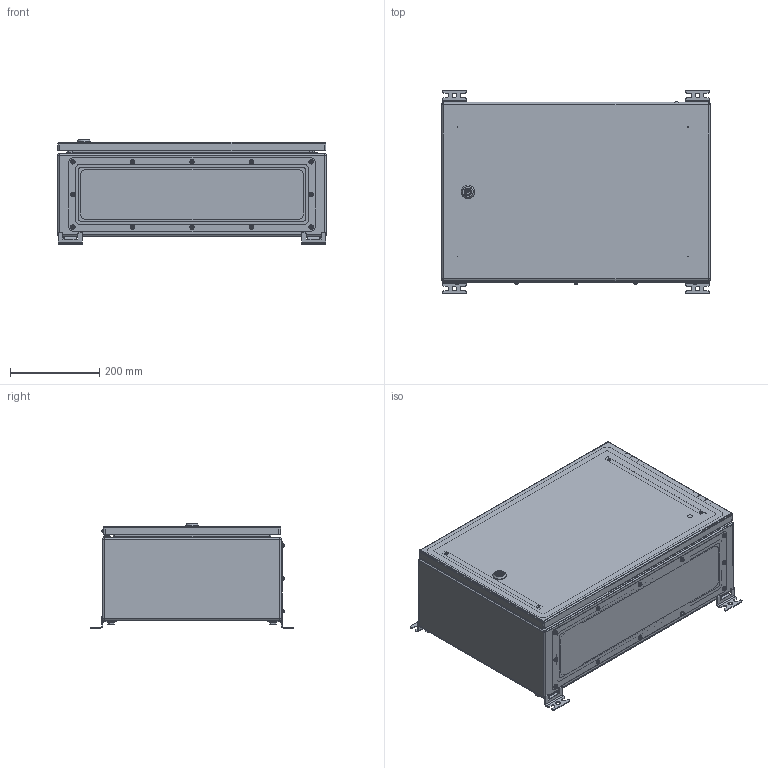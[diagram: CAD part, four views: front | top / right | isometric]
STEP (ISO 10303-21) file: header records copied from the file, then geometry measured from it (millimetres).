
FILE_DESCRIPTION(('STEP AP242'), '1');
FILE_NAME('400 ﾙﾌﾏ-1 (IP-56)', '', ('UNSPECIFIED'), ('UNSPECIFIED'), 'C3D Converter', 'C3D Toolkit', '');
FILE_SCHEMA(('AP242_MANAGED_MODEL_BASED_3D_ENGINEERING_MIM_LF { 1 0 10303 442 1 1 4 }'));
Length unit declared in the file: millimetre
Products named in the file (50): ЩМП-1-ЛФ СБ; 410-ЛФ; 420; 421; 411-Ф; 430-Л; 431-Л; 490; 491; 401; 440-Ф; 441-Ф; 402; 403; 450; 451; ЦИУЛ.210677.00.03-03; 452
Assembly tree (144 placements, depth 4):
  ЩМП-1-ЛФ СБ
    410-ЛФ
      420
        421
        (unnamed)  x4
        (unnamed)
      411-Ф
      430-Л
        431-Л
        (unnamed)  x12
    490  x2
      491
      (unnamed)
      (unnamed)
      (unnamed)
      (unnamed)
      (unnamed)
    490  x2
      491
      (unnamed)
      (unnamed)
      (unnamed)
      (unnamed)
      (unnamed)
    401
    (unnamed)  x4
    (unnamed)  x4
    (unnamed)  x4
    (unnamed)  x2
      (unnamed)
      (unnamed)
      (unnamed)
    (unnamed)  x16
    440-Ф
      441-Ф
      (unnamed)
      (unnamed)  x4
      (unnamed)  x2
    402  x2
    (unnamed)  x4
    (unnamed)  x4
    (unnamed)
      (unnamed)
      (unnamed)
      (unnamed)
      (unnamed)
      (unnamed)
    (unnamed)
    403
    (unnamed)  x12
    (unnamed)  x12
    450
      451
      (unnamed)  x3
      (unnamed)  x2
      (unnamed)  x2
      (unnamed)  x3
      ЦИУЛ.210677.00.03-03
      452
      (unnamed)
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Bounding box: 600 x 456 x 233.1 mm (x, y, z)
Volume: 2264062 mm3; surface area: 2680840.7 mm2
Topology: 151 solids, 151 shells, 2650 faces, 6152 edges, 3889 vertices
Faces by surface type: plane 1556, cylinder 711, cone 260, sphere 43, torus 33, extrusion 27, bspline 20
Full cylindrical faces by diameter (mm): 0.5 x4, 2.6 x4, 3.3 x1, 3.5 x44, 4 x1, 4.134 x15, 4.2 x5, 4.917 x4, 5 x20, 5.3 x2, 5.5 x23, 5.75 x3, 5.8 x1, 6 x29, 6.38 x12, 6.4 x16, 6.647 x8, 7 x6, 7.3 x4, 7.4 x1, 7.5 x6, 7.74 x12, 8 x14, 8.4 x8, 8.5 x31, 8.7 x12, 9 x12, 10 x22, 10.4 x1, 10.5 x5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
Entity records: 71188 total; most frequent: CARTESIAN_POINT 35880, DIRECTION 5754, ORIENTED_EDGE 5416, EDGE_CURVE 2708, AXIS2_PLACEMENT_3D 2121, VERTEX_POINT 1820, EDGE_LOOP 1604, VECTOR 1512
